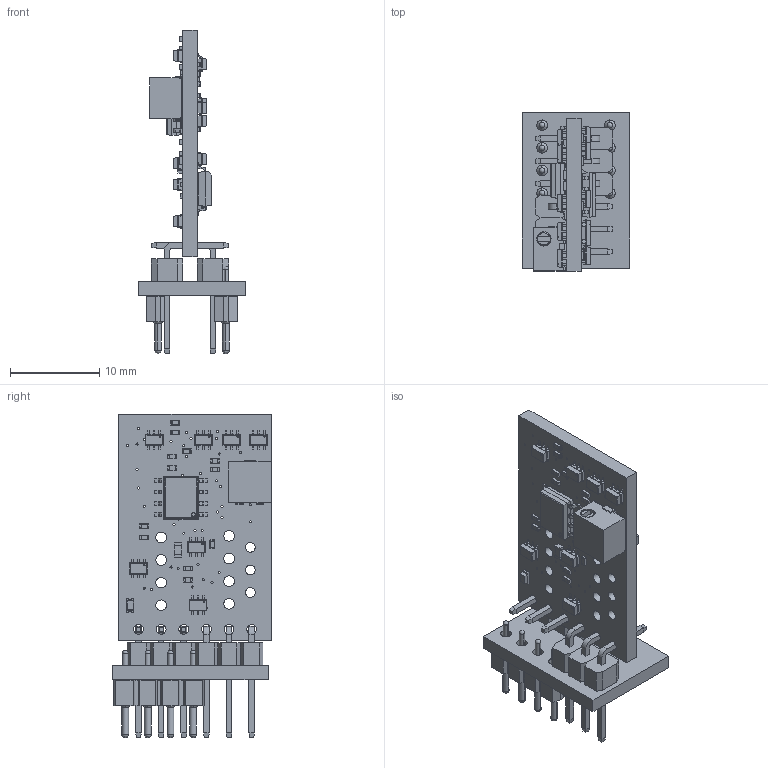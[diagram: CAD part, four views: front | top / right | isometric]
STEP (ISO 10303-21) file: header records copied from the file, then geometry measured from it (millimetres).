
FILE_DESCRIPTION(('for SolidWorks'),'2;1');
FILE_NAME('C:\www\opencart-4.1.0.3\ImagesForSite\3D_models\Bel_amp_tall_V_20260806.step','2026-09-23T20:14:05',('B'),(''), 'Open CASCADE STEP processor 6.6','DipTrace','Unknown');
FILE_SCHEMA(('AUTOMOTIVE_DESIGN { 1 0 10303 214 1 1 1 1 }'));
Length unit declared in the file: millimetre
Products named in the file (4): PCB_Bel_amp_tall_V_20260806; Board_Bel_amp_tall_V_20260806; preci-dip_800-10-004-10-002101; Bel_amp_tall_vert-mount_202160806
Assembly tree (4 placements, depth 2):
  PCB_Bel_amp_tall_V_20260806
    Board_Bel_amp_tall_V_20260806
    preci-dip_800-10-004-10-002101  x2
    Bel_amp_tall_vert-mount_202160806
Bounding box: 12.06 x 17.84 x 36.29 mm (x, y, z)
Volume: 469.8 mm3; surface area: 3205.4 mm2
Topology: 3 solids, 237 shells, 3484 faces, 8647 edges, 5628 vertices
Faces by surface type: plane 2840, cylinder 561, cone 37, sphere 28, torus 17, bspline 1
Full cylindrical faces by diameter (mm): 0.156 x12, 0.163 x1, 0.254 x2, 0.41 x2, 1.1 x15, 1.2 x16
Entity records: 124025 total; most frequent: CARTESIAN_POINT 17381, ORIENTED_EDGE 16734, DIRECTION 16164, EDGE_CURVE 8367, LINE 7314, VECTOR 7314, VERTEX_POINT 5472, AXIS2_PLACEMENT_3D 4425
